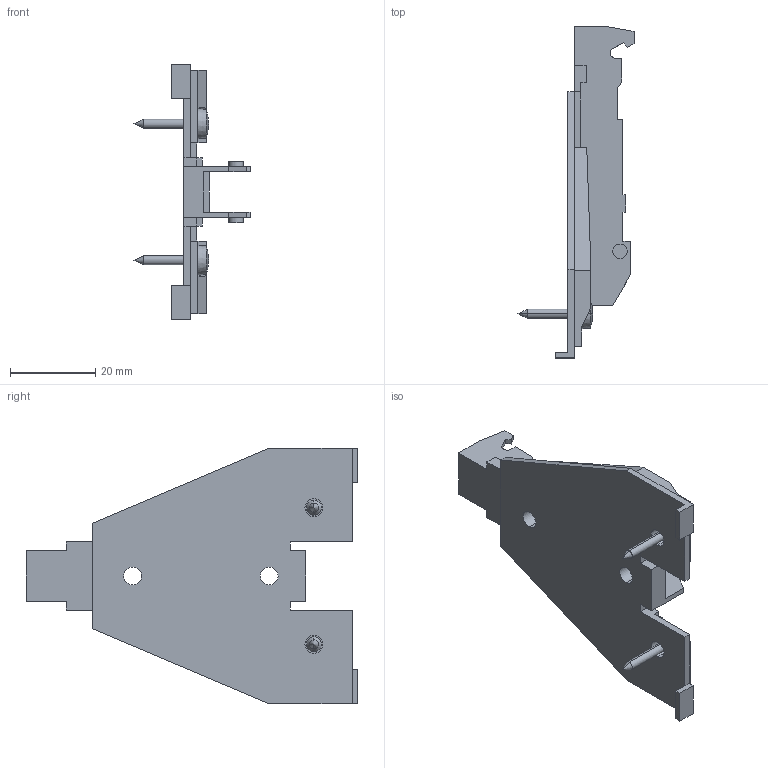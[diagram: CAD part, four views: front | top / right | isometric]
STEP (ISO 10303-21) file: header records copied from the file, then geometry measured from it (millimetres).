
FILE_DESCRIPTION (( 'STEP AP214' ), '1' );
FILE_NAME ('1D Deltamontageplatte Spax_vormontiert_H05.step', '2010-11-18T09:42:19', ( 'grass' ), ( '' ), 'SwSTEP 2.0', 'SolidWorks 2010', '' );
FILE_SCHEMA (( 'AUTOMOTIVE_DESIGN' ));
Length unit declared in the file: millimetre
Products named in the file (1): 1D Deltamontageplatte Spax_vormontiert_H05
Bounding box: 27.2 x 77.75 x 60 mm (x, y, z)
Volume: 12893.4 mm3; surface area: 10177.1 mm2
Topology: 1 solids, 1 shells, 148 faces, 408 edges, 266 vertices
Faces by surface type: plane 110, cylinder 22, cone 12, sphere 4
Entity records: 4670 total; most frequent: CARTESIAN_POINT 825, ORIENTED_EDGE 808, DIRECTION 760, EDGE_CURVE 404, LINE 342, VECTOR 342, VERTEX_POINT 266, AXIS2_PLACEMENT_3D 209
